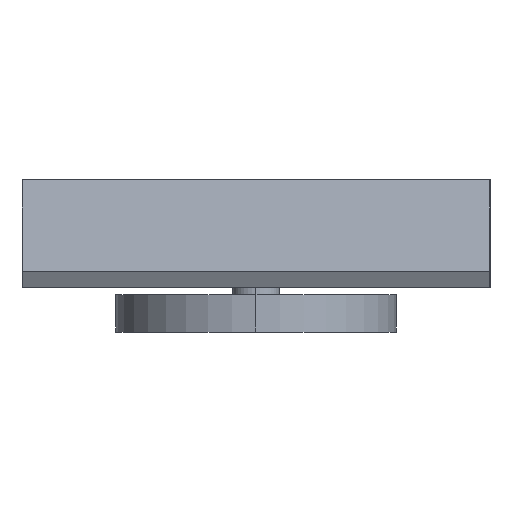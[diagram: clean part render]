
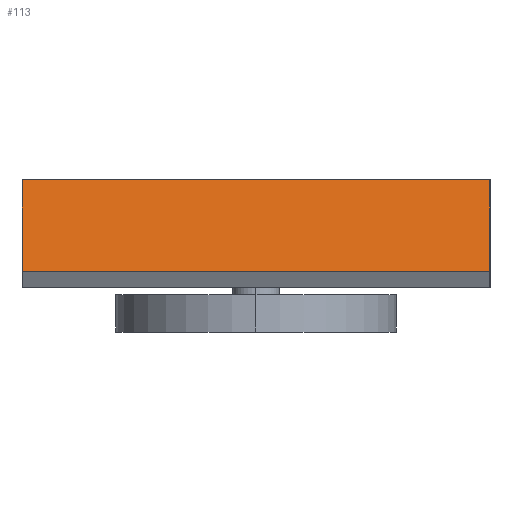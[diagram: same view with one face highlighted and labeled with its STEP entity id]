
A CAD part, left-side view. The second image highlights one B-rep face of the part: STEP entity #113.
In plain terms, the highlighted planar face has unit normal (-0.474, 0, 0.88).
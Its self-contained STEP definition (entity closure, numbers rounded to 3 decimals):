
#113 = ADVANCED_FACE( '', ( #212 ), #213, .T. );
#212 = FACE_OUTER_BOUND( '', #334, .T. );
#213 = PLANE( '', #335 );
#334 = EDGE_LOOP( '', ( #656, #657, #658, #659 ) );
#335 = AXIS2_PLACEMENT_3D( '', #660, #661, #662 );
#656 = ORIENTED_EDGE( '', *, *, #884, .T. );
#657 = ORIENTED_EDGE( '', *, *, #869, .F. );
#658 = ORIENTED_EDGE( '', *, *, #885, .F. );
#659 = ORIENTED_EDGE( '', *, *, #882, .T. );
#660 = CARTESIAN_POINT( '', ( -48.179, 50., 13.02 ) );
#661 = DIRECTION( '', ( -0.474, 0., 0.88 ) );
#662 = DIRECTION( '', ( -0.88, 0., -0.474 ) );
#869 = EDGE_CURVE( '', #1065, #1060, #1067, .T. );
#882 = EDGE_CURVE( '', #1087, #1085, #1088, .T. );
#884 = EDGE_CURVE( '', #1085, #1060, #1090, .T. );
#885 = EDGE_CURVE( '', #1087, #1065, #1091, .T. );
#1060 = VERTEX_POINT( '', #1312 );
#1065 = VERTEX_POINT( '', #1319 );
#1067 = LINE( '', #1322, #1323 );
#1085 = VERTEX_POINT( '', #1352 );
#1087 = VERTEX_POINT( '', #1355 );
#1088 = LINE( '', #1356, #1357 );
#1090 = LINE( '', #1360, #1361 );
#1091 = LINE( '', #1362, #1363 );
#1312 = CARTESIAN_POINT( '', ( -12., -50., 32.5 ) );
#1319 = CARTESIAN_POINT( '', ( -12., 50., 32.5 ) );
#1322 = CARTESIAN_POINT( '', ( -12., 50., 32.5 ) );
#1323 = VECTOR( '', #1589, 1. );
#1352 = CARTESIAN_POINT( '', ( -48.179, -50., 13.02 ) );
#1355 = CARTESIAN_POINT( '', ( -48.179, 50., 13.02 ) );
#1356 = CARTESIAN_POINT( '', ( -48.179, 50., 13.02 ) );
#1357 = VECTOR( '', #1602, 1. );
#1360 = CARTESIAN_POINT( '', ( -48.179, -50., 13.02 ) );
#1361 = VECTOR( '', #1604, 1. );
#1362 = CARTESIAN_POINT( '', ( -48.179, 50., 13.02 ) );
#1363 = VECTOR( '', #1605, 1. );
#1589 = DIRECTION( '', ( 0., -1., 0. ) );
#1602 = DIRECTION( '', ( 0., -1., 0. ) );
#1604 = DIRECTION( '', ( 0.88, 0., 0.474 ) );
#1605 = DIRECTION( '', ( 0.88, 0., 0.474 ) );
